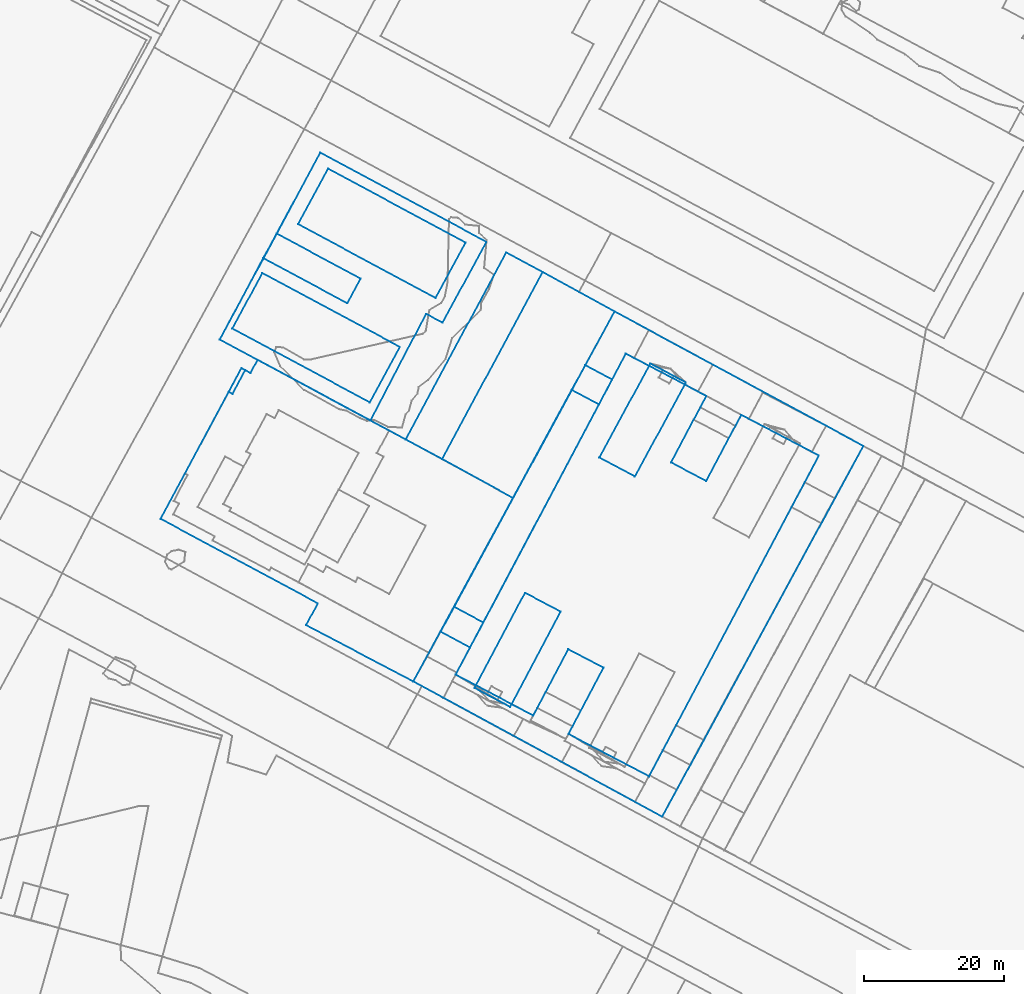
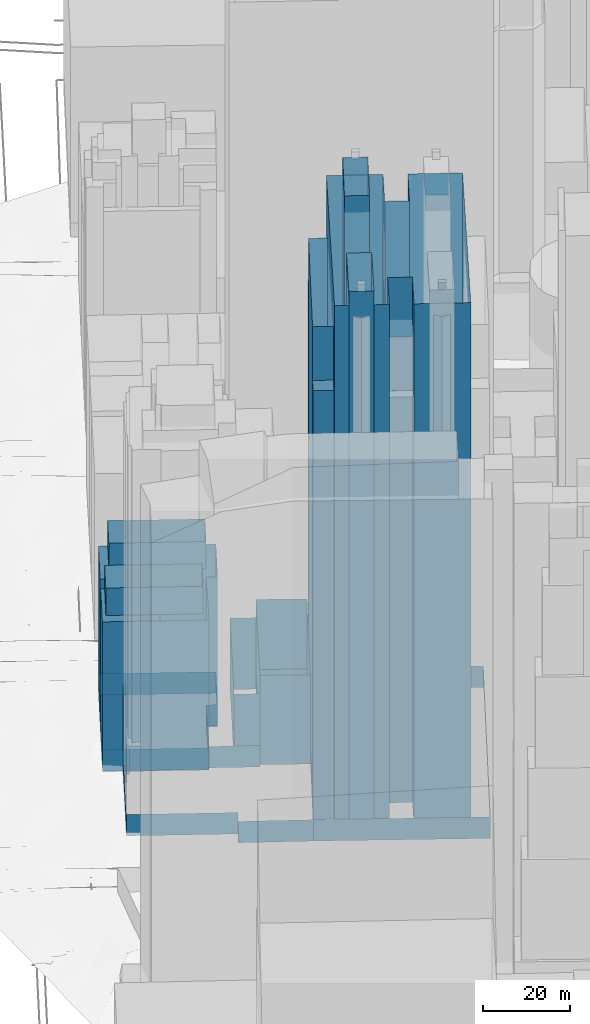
# Not in any storey, part 19 of 80: 16 walls.
"""IFC4 building model written with IfcOpenShell, lengths in metres."""

from ifc_helpers import new_model, si_unit, frame, origin_with_axes, place, context, subcontext, project, spatial, polygons, element, save


model = new_model("IFC4")

# Units and contexts
model_context = context("Model", 3, precision=1e-05, world=origin_with_axes())
body_context = subcontext(model_context, "Body", "Model", "MODEL_VIEW")
ifc_project = project(units=[si_unit("AREAUNIT", "SQUARE_METRE"), si_unit("LENGTHUNIT", "METRE")], contexts=[model_context])

# Sites, building
site_1_placement = place(None, origin_with_axes())
site_1 = spatial("IfcSite", under=ifc_project, at=site_1_placement, Name="Topoexport Site")
site_2_placement = place(site_1_placement, origin_with_axes())
site_2 = spatial("IfcSite", under=site_1, at=site_2_placement, Name="TPX_BATIMENTS")
building_1_placement = place(site_2_placement, frame((85.8586663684, 128.8500079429, 20.7906594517), z_axis=(0.0, 0.0, 1.0), x_axis=(1.0, 0.0, 0.0)))
building_1 = spatial("IfcBuilding", under=site_2, at=building_1_placement, Name="Batiment 50", CompositionType="ELEMENT")

# Wall
wall_1_placement = place(None, frame((85.8586663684, 128.8500079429, 20.7906594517), z_axis=(0.0, 0.0, 1.0), x_axis=(1.0, 0.0, 0.0)))
element("IfcWall", 1, at=wall_1_placement, inside=building_1, Name="Mur 0", context=body_context, shape_type="Tessellation", body=[
    polygons([(0.0, 0.0, 0.0), (11.1010060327, -5.844095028, 0.0), (16.1233334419, 3.6400451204, 0.0), (21.1599686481, 0.9895951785, 0.0), (16.1375167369, -8.4834476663, 0.0), (27.6547095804, -14.544729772, 0.0), (51.973663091, 31.3347461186, 0.0), (40.8642373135, 37.1786817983, 0.0), (35.8417076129, 27.7167250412, 0.0), (30.8135250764, 30.3672629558, 0.0), (35.8607355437, 39.8850142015, 0.0), (24.3521878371, 45.9352801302, 0.0), (0.0, 0.0, 147.0), (11.1010060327, -5.844095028, 147.0), (16.1233334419, 3.6400451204, 147.0), (21.1599686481, 0.9895951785, 147.0), (16.1375167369, -8.4834476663, 147.0), (27.6547095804, -14.544729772, 147.0), (51.973663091, 31.3347461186, 147.0), (40.8642373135, 37.1786817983, 147.0), (35.8417076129, 27.7167250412, 147.0), (30.8135250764, 30.3672629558, 147.0), (35.8607355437, 39.8850142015, 147.0), (24.3521878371, 45.9352801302, 147.0)], [[[14, 13, 2]], [[2, 13, 1]], [[15, 14, 3]], [[3, 14, 2]], [[16, 15, 4]], [[4, 15, 3]], [[17, 16, 5]], [[5, 16, 4]], [[18, 17, 6]], [[6, 17, 5]], [[19, 18, 7]], [[7, 18, 6]], [[20, 19, 8]], [[8, 19, 7]], [[21, 20, 9]], [[9, 20, 8]], [[22, 21, 10]], [[10, 21, 9]], [[23, 22, 11]], [[11, 22, 10]], [[13, 24, 1]], [[1, 24, 12]], [[24, 23, 12]], [[12, 23, 11]]]),
])

# Building
building_2_placement = place(site_2_placement, frame((79.7834254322, 127.8912834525, 20.6975796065), z_axis=(0.0, 0.0, 1.0), x_axis=(1.0, 0.0, 0.0)))
building_2 = spatial("IfcBuilding", under=site_2, at=building_2_placement, Name="Batiment 51", CompositionType="ELEMENT")

# Wall
wall_2_placement = place(None, frame((79.7834254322, 127.8912834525, 20.6975796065), z_axis=(0.0, 0.0, 1.0), x_axis=(1.0, 0.0, 0.0)))
element("IfcWall", 2, at=wall_2_placement, inside=building_2, Name="Mur 0", context=body_context, shape_type="Tessellation", body=[
    polygons([(0.0, 0.0, 0.0), (35.637279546, -19.3592245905, 0.0), (64.4060548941, 33.6885073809, 0.0), (28.8041259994, 52.9258761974, 0.0), (0.0, 0.0, 6.0), (35.637279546, -19.3592245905, 6.0), (64.4060548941, 33.6885073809, 6.0), (28.8041259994, 52.9258761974, 6.0)], [[[6, 5, 2]], [[2, 5, 1]], [[7, 6, 3]], [[3, 6, 2]], [[5, 8, 1]], [[1, 8, 4]], [[8, 7, 4]], [[4, 7, 3]]]),
])

# Building
building_3_placement = place(site_2_placement, frame((106.4243167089, 159.930902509, 21.4761548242), z_axis=(0.0, 0.0, 1.0), x_axis=(1.0, 0.0, 0.0)))
building_3 = spatial("IfcBuilding", under=site_2, at=building_3_placement, Name="Batiment 52", CompositionType="ELEMENT")

# Wall
wall_3_placement = place(None, frame((106.4243167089, 159.930902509, 21.4761548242), z_axis=(0.0, 0.0, 1.0), x_axis=(1.0, 0.0, 0.0)))
element("IfcWall", 3, at=wall_3_placement, inside=building_3, Name="Mur 0", context=body_context, shape_type="Tessellation", body=[
    polygons([(0.0, 0.0, 0.0), (5.0797232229, -2.7276618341, 0.0), (12.3774646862, 10.7131197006, 0.0), (7.2976187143, 13.4518772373, 0.0), (0.0, 0.0, 151.0), (5.0797232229, -2.7276618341, 151.0), (12.3774646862, 10.7131197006, 151.0), (7.2976187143, 13.4518772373, 151.0)], [[[6, 5, 2]], [[2, 5, 1]], [[7, 6, 3]], [[3, 6, 2]], [[5, 8, 1]], [[1, 8, 4]], [[8, 7, 4]], [[4, 7, 3]]]),
])

# Building
building_4_placement = place(site_2_placement, frame((102.4881306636, 169.5885518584, 21.7443464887), z_axis=(0.0, 0.0, 1.0), x_axis=(1.0, 0.0, 0.0)))
building_4 = spatial("IfcBuilding", under=site_2, at=building_4_placement, Name="Batiment 53", CompositionType="ELEMENT")

# Wall
wall_4_placement = place(None, frame((102.4881306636, 169.5885518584, 21.7443464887), z_axis=(0.0, 0.0, 1.0), x_axis=(1.0, 0.0, 0.0)))
element("IfcWall", 4, at=wall_4_placement, inside=building_4, Name="Mur 0", context=body_context, shape_type="Tessellation", body=[
    polygons([(0.0, 0.0, 0.0), (3.865132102, -2.0867392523, 0.0), (5.7567207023, 1.4879525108, 0.0), (1.9256092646, 3.5528813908, 0.0), (0.0, 0.0, 120.0), (3.865132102, -2.0867392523, 120.0), (5.7567207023, 1.4879525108, 120.0), (1.9256092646, 3.5528813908, 120.0)], [[[6, 5, 2]], [[2, 5, 1]], [[7, 6, 3]], [[3, 6, 2]], [[5, 8, 1]], [[1, 8, 4]], [[8, 7, 4]], [[4, 7, 3]]]),
])

# Building
building_5_placement = place(site_2_placement, frame((78.7061684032, 162.506692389, 21.2045848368), z_axis=(0.0, 0.0, 1.0), x_axis=(1.0, 0.0, 0.0)))
building_5 = spatial("IfcBuilding", under=site_2, at=building_5_placement, Name="Batiment 173", CompositionType="ELEMENT")

# Wall
wall_5_placement = place(None, frame((78.7061684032, 162.506692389, 21.2045848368), z_axis=(0.0, 0.0, 1.0), x_axis=(1.0, 0.0, 0.0)))
element("IfcWall", 5, at=wall_5_placement, inside=building_5, Name="Mur 0", context=body_context, shape_type="Tessellation", body=[
    polygons([(0.0, 0.0, 0.0), (5.2156594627, -2.803817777, 0.0), (19.5931770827, 23.953040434, 0.0), (14.377530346, 26.7568479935, 0.0), (0.0, 0.0, 20.0), (5.2156594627, -2.803817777, 20.0), (19.5931770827, 23.953040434, 20.0), (14.377530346, 26.7568479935, 20.0)], [[[6, 5, 2]], [[2, 5, 1]], [[7, 6, 3]], [[3, 6, 2]], [[5, 8, 1]], [[1, 8, 4]], [[8, 7, 4]], [[4, 7, 3]]]),
])

# Building
building_6_placement = place(site_2_placement, frame((53.9063589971, 178.3836490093, 62.2466982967), z_axis=(0.0, 0.0, 1.0), x_axis=(1.0, 0.0, 0.0)))
building_6 = spatial("IfcBuilding", under=site_2, at=building_6_placement, Name="Batiment 174", CompositionType="ELEMENT")

# Wall
wall_6_placement = place(None, frame((53.9063589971, 178.3836490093, 62.2466982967), z_axis=(0.0, 0.0, 1.0), x_axis=(1.0, 0.0, 0.0)))
element("IfcWall", 6, at=wall_6_placement, inside=building_6, Name="Mur 0", context=body_context, shape_type="Tessellation", body=[
    polygons([(0.0, 0.0, 0.0), (19.6563100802, -10.5631889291, 0.0), (23.9622377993, -2.6305951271, 0.0), (4.2973726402, 7.9435850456, 0.0), (0.0, 0.0, 7.7000007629), (19.6563100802, -10.5631889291, 7.7000007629), (23.9622377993, -2.6305951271, 7.7000007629), (4.2973726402, 7.9435850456, 7.7000007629)], [[[6, 5, 2]], [[2, 5, 1]], [[7, 6, 3]], [[3, 6, 2]], [[5, 8, 1]], [[1, 8, 4]], [[8, 7, 4]], [[4, 7, 3]]]),
])

# Building
building_7_placement = place(site_2_placement, frame((52.1098467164, 176.7973780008, 20.2692366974), z_axis=(0.0, 0.0, 1.0), x_axis=(1.0, 0.0, 0.0)))
building_7 = spatial("IfcBuilding", under=site_2, at=building_7_placement, Name="Batiment 175", CompositionType="ELEMENT")

# Wall
wall_7_placement = place(None, frame((52.1098467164, 176.7973780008, 20.2692366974), z_axis=(0.0, 0.0, 1.0), x_axis=(1.0, 0.0, 0.0)))
element("IfcWall", 7, at=wall_7_placement, inside=building_7, Name="Mur 0", context=body_context, shape_type="Tessellation", body=[
    polygons([(0.0, 0.0, 0.0), (21.5590744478, -11.5847130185, 0.0), (29.5109655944, 3.6843947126, 0.0), (31.872471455, 2.412853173, 0.0), (38.1367223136, 13.9875293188, 0.0), (14.3775952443, 26.7567958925, 0.0), (0.0, 0.0, 6.0), (21.5590744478, -11.5847130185, 6.0), (29.5109655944, 3.6843947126, 6.0), (31.872471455, 2.412853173, 6.0), (38.1367223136, 13.9875293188, 6.0), (14.3775952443, 26.7567958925, 6.0)], [[[8, 7, 2]], [[2, 7, 1]], [[9, 8, 3]], [[3, 8, 2]], [[10, 9, 4]], [[4, 9, 3]], [[11, 10, 5]], [[5, 10, 4]], [[7, 12, 1]], [[1, 12, 6]], [[12, 11, 6]], [[6, 11, 5]]]),
])

# Building
building_8_placement = place(site_2_placement, frame((52.1098467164, 176.7973780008, 20.0588630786), z_axis=(0.0, 0.0, 1.0), x_axis=(1.0, 0.0, 0.0)))
building_8 = spatial("IfcBuilding", under=site_2, at=building_8_placement, Name="Batiment 176", CompositionType="ELEMENT")

# Wall
wall_8_placement = place(None, frame((52.1098467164, 176.7973780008, 20.0588630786), z_axis=(0.0, 0.0, 1.0), x_axis=(1.0, 0.0, 0.0)))
element("IfcWall", 8, at=wall_8_placement, inside=building_8, Name="Mur 0", context=body_context, shape_type="Tessellation", body=[
    polygons([(0.0, 0.0, 0.0), (21.5590744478, -11.5847130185, 0.0), (29.5109655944, 3.6843947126, 0.0), (31.872471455, 2.412853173, 0.0), (38.1367223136, 13.9875293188, 0.0), (14.3775952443, 26.7567958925, 0.0), (8.1303289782, 15.1712352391, 0.0), (20.1415581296, 8.715946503, 0.0), (18.2324312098, 5.1965718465, 0.0), (6.2211982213, 11.6518637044, 0.0), (0.0, 0.0, 42.0), (21.5590744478, -11.5847130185, 42.0), (29.5109655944, 3.6843947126, 42.0), (31.872471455, 2.412853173, 42.0), (38.1367223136, 13.9875293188, 42.0), (14.3775952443, 26.7567958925, 42.0), (8.1303289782, 15.1712352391, 42.0), (20.1415581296, 8.715946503, 42.0), (18.2324312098, 5.1965718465, 42.0), (6.2211982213, 11.6518637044, 42.0)], [[[12, 11, 2]], [[2, 11, 1]], [[13, 12, 3]], [[3, 12, 2]], [[14, 13, 4]], [[4, 13, 3]], [[15, 14, 5]], [[5, 14, 4]], [[16, 15, 6]], [[6, 15, 5]], [[17, 16, 7]], [[7, 16, 6]], [[18, 17, 8]], [[8, 17, 7]], [[19, 18, 9]], [[9, 18, 8]], [[11, 20, 1]], [[1, 20, 10]], [[20, 19, 10]], [[10, 19, 9]]]),
])

# Building
building_9_placement = place(site_2_placement, frame((63.3141408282, 193.3143650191, 62.430841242), z_axis=(0.0, 0.0, 1.0), x_axis=(1.0, 0.0, 0.0)))
building_9 = spatial("IfcBuilding", under=site_2, at=building_9_placement, Name="Batiment 177", CompositionType="ELEMENT")

# Wall
wall_9_placement = place(None, frame((63.3141408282, 193.3143650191, 62.430841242), z_axis=(0.0, 0.0, 1.0), x_axis=(1.0, 0.0, 0.0)))
element("IfcWall", 9, at=wall_9_placement, inside=building_9, Name="Mur 0", context=body_context, shape_type="Tessellation", body=[
    polygons([(0.0, 0.0, 0.0), (19.6564142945, -10.5742645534, 0.0), (23.9623227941, -2.6416648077, 0.0), (4.2974822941, 7.9324902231, 0.0), (0.0, 0.0, 7.7000007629), (19.6564142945, -10.5742645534, 7.7000007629), (23.9623227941, -2.6416648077, 7.7000007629), (4.2974822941, 7.9324902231, 7.7000007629)], [[[6, 5, 2]], [[2, 5, 1]], [[7, 6, 3]], [[3, 6, 2]], [[5, 8, 1]], [[1, 8, 4]], [[8, 7, 4]], [[4, 7, 3]]]),
])

# Building
building_10_placement = place(site_2_placement, frame((58.3310449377, 188.4492417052, 20.0588630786), z_axis=(0.0, 0.0, 1.0), x_axis=(1.0, 0.0, 0.0)))
building_10 = spatial("IfcBuilding", under=site_2, at=building_10_placement, Name="Batiment 178", CompositionType="ELEMENT")

# Wall
wall_10_placement = place(None, frame((58.3310449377, 188.4492417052, 20.0588630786), z_axis=(0.0, 0.0, 1.0), x_axis=(1.0, 0.0, 0.0)))
element("IfcWall", 10, at=wall_10_placement, inside=building_10, Name="Mur 0", context=body_context, shape_type="Tessellation", body=[
    polygons([(0.0, 0.0, 0.0), (12.0112329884, -6.4552918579, 0.0), (13.9203599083, -2.9359172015, 0.0), (1.9091307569, 3.5193715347, 0.0), (0.0, 0.0, 5.0), (12.0112329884, -6.4552918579, 5.0), (13.9203599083, -2.9359172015, 5.0), (1.9091307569, 3.5193715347, 5.0)], [[[6, 5, 2]], [[2, 5, 1]], [[7, 6, 3]], [[3, 6, 2]], [[5, 8, 1]], [[1, 8, 4]], [[8, 7, 4]], [[4, 7, 3]]]),
])

# Building
building_11_placement = place(site_2_placement, frame((53.3786072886, 169.3069851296, 21.038693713), z_axis=(0.0, 0.0, 1.0), x_axis=(1.0, 0.0, 0.0)))
building_11 = spatial("IfcBuilding", under=site_2, at=building_11_placement, Name="Batiment 179", CompositionType="ELEMENT")

# Wall
wall_11_placement = place(None, frame((53.3786072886, 169.3069851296, 21.038693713), z_axis=(0.0, 0.0, 1.0), x_axis=(1.0, 0.0, 0.0)))
element("IfcWall", 11, at=wall_11_placement, inside=building_11, Name="Mur 0", context=body_context, shape_type="Tessellation", body=[
    polygons([(0.0, 0.0, 0.0), (0.5353523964, -0.3046485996, 0.0), (2.3698157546, 3.1028322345, 0.0), (1.8261519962, 3.3962819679, 0.0), (0.0, 0.0, 25.0), (0.5353523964, -0.3046485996, 25.0), (2.3698157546, 3.1028322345, 25.0), (1.8261519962, 3.3962819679, 25.0)], [[[6, 5, 2]], [[2, 5, 1]], [[7, 6, 3]], [[3, 6, 2]], [[5, 8, 1]], [[1, 8, 4]], [[8, 7, 4]], [[4, 7, 3]]]),
])

# Building
building_12_placement = place(site_2_placement, frame((43.6198790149, 151.1525582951, 20.6875388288), z_axis=(0.0, 0.0, 1.0), x_axis=(1.0, 0.0, 0.0)))
building_12 = spatial("IfcBuilding", under=site_2, at=building_12_placement, Name="Batiment 183", CompositionType="ELEMENT")

# Wall
wall_12_placement = place(None, frame((43.6198790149, 151.1525582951, 20.6875388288), z_axis=(0.0, 0.0, 1.0), x_axis=(1.0, 0.0, 0.0)))
element("IfcWall", 12, at=wall_12_placement, inside=building_12, Name="Mur 0", context=body_context, shape_type="Tessellation", body=[
    polygons([(0.0, 0.0, 0.0), (22.5189582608, -12.0954008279, 0.0), (20.8331965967, -15.2236014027, 0.0), (36.1635464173, -23.2612748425, 0.0), (64.9676724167, 29.6646013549, 0.0), (54.679466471, 35.307174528, 0.0), (40.301948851, 8.550316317, 0.0), (13.8924549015, 22.7432322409, 0.0), (12.8760656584, 20.8551533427, 0.0), (11.5848802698, 21.5507088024, 0.0), (0.0, 0.0, 6.0), (22.5189582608, -12.0954008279, 6.0), (20.8331965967, -15.2236014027, 6.0), (36.1635464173, -23.2612748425, 6.0), (64.9676724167, 29.6646013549, 6.0), (54.679466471, 35.307174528, 6.0), (40.301948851, 8.550316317, 6.0), (13.8924549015, 22.7432322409, 6.0), (12.8760656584, 20.8551533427, 6.0), (11.5848802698, 21.5507088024, 6.0)], [[[12, 11, 2]], [[2, 11, 1]], [[13, 12, 3]], [[3, 12, 2]], [[14, 13, 4]], [[4, 13, 3]], [[15, 14, 5]], [[5, 14, 4]], [[16, 15, 6]], [[6, 15, 5]], [[17, 16, 7]], [[7, 16, 6]], [[18, 17, 8]], [[8, 17, 7]], [[19, 18, 9]], [[9, 18, 8]], [[11, 20, 1]], [[1, 20, 10]], [[20, 19, 10]], [[10, 19, 9]]]),
])

# Building
building_13_placement = place(site_2_placement, frame((83.9218278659, 159.7028746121, 21.3185794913), z_axis=(0.0, 0.0, 1.0), x_axis=(1.0, 0.0, 0.0)))
building_13 = spatial("IfcBuilding", under=site_2, at=building_13_placement, Name="Batiment 184", CompositionType="ELEMENT")

# Wall
wall_13_placement = place(None, frame((83.9218278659, 159.7028746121, 21.3185794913), z_axis=(0.0, 0.0, 1.0), x_axis=(1.0, 0.0, 0.0)))
element("IfcWall", 13, at=wall_13_placement, inside=building_13, Name="Mur 0", context=body_context, shape_type="Tessellation", body=[
    polygons([(0.0, 0.0, 0.0), (10.1183913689, -5.5557477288, 0.0), (24.6657235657, 21.1142850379, 0.0), (14.37751762, 26.756858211, 0.0), (0.0, 0.0, 25.0), (10.1183913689, -5.5557477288, 25.0), (24.6657235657, 21.1142850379, 25.0), (14.37751762, 26.756858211, 25.0)], [[[6, 5, 2]], [[2, 5, 1]], [[7, 6, 3]], [[3, 6, 2]], [[5, 8, 1]], [[1, 8, 4]], [[8, 7, 4]], [[4, 7, 3]]]),
])

# Building
building_14_placement = place(site_2_placement, frame((85.6362783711, 138.5507919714, 21.0890233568), z_axis=(0.0, 0.0, 1.0), x_axis=(1.0, 0.0, 0.0)))
building_14 = spatial("IfcBuilding", under=site_2, at=building_14_placement, Name="Batiment 185", CompositionType="ELEMENT")

# Wall
wall_14_placement = place(None, frame((85.6362783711, 138.5507919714, 21.0890233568), z_axis=(0.0, 0.0, 1.0), x_axis=(1.0, 0.0, 0.0)))
element("IfcWall", 14, at=wall_14_placement, inside=building_14, Name="Mur 0", context=body_context, shape_type="Tessellation", body=[
    polygons([(0.0, 0.0, 0.0), (4.1792434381, -2.2385320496, 0.0), (20.7169843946, 28.9510206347, 0.0), (16.8518522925, 31.0377598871, 0.0), (0.0, 0.0, 135.0), (4.1792434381, -2.2385320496, 135.0), (20.7169843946, 28.9510206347, 135.0), (16.8518522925, 31.0377598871, 135.0)], [[[6, 5, 2]], [[2, 5, 1]], [[7, 6, 3]], [[3, 6, 2]], [[5, 8, 1]], [[1, 8, 4]], [[8, 7, 4]], [[4, 7, 3]]]),
])

# Building
building_15_placement = place(site_2_placement, frame((88.5482734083, 126.9494492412, 20.9399890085), z_axis=(0.0, 0.0, 1.0), x_axis=(1.0, 0.0, 0.0)))
building_15 = spatial("IfcBuilding", under=site_2, at=building_15_placement, Name="Batiment 187", CompositionType="ELEMENT")

# Wall
wall_15_placement = place(None, frame((88.5482734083, 126.9494492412, 20.9399890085), z_axis=(0.0, 0.0, 1.0), x_axis=(1.0, 0.0, 0.0)))
element("IfcWall", 15, at=wall_15_placement, inside=building_15, Name="Mur 0", context=body_context, shape_type="Tessellation", body=[
    polygons([(0.0, 0.0, 0.0), (5.0963614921, -2.7052766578, 0.0), (12.3328949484, 10.9235121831, 0.0), (7.2282283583, 13.617585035, 0.0), (0.0, 0.0, 151.0), (5.0963614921, -2.7052766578, 151.0), (12.3328949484, 10.9235121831, 151.0), (7.2282283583, 13.617585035, 151.0)], [[[6, 5, 2]], [[2, 5, 1]], [[7, 6, 3]], [[3, 6, 2]], [[5, 8, 1]], [[1, 8, 4]], [[8, 7, 4]], [[4, 7, 3]]]),
])

# Building
building_16_placement = place(site_2_placement, frame((83.7106505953, 134.9979159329, 21.0569415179), z_axis=(0.0, 0.0, 1.0), x_axis=(1.0, 0.0, 0.0)))
building_16 = spatial("IfcBuilding", under=site_2, at=building_16_placement, Name="Batiment 192", CompositionType="ELEMENT")

# Wall
wall_16_placement = place(None, frame((83.7106505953, 134.9979159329, 21.0569415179), z_axis=(0.0, 0.0, 1.0), x_axis=(1.0, 0.0, 0.0)))
element("IfcWall", 16, at=wall_16_placement, inside=building_16, Name="Mur 0", context=body_context, shape_type="Tessellation", body=[
    polygons([(0.0, 0.0, 0.0), (4.2049527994, -2.2715413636, 0.0), (6.1048712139, 1.3143439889, 0.0), (1.9256277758, 3.5528760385, 0.0), (0.0, 0.0, 120.0), (4.2049527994, -2.2715413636, 120.0), (6.1048712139, 1.3143439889, 120.0), (1.9256277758, 3.5528760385, 120.0)], [[[6, 5, 2]], [[2, 5, 1]], [[7, 6, 3]], [[3, 6, 2]], [[5, 8, 1]], [[1, 8, 4]], [[8, 7, 4]], [[4, 7, 3]]]),
])

save(model, "model.ifc")
